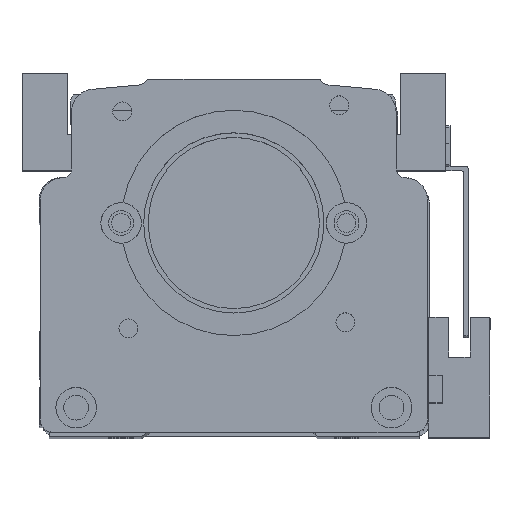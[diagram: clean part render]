
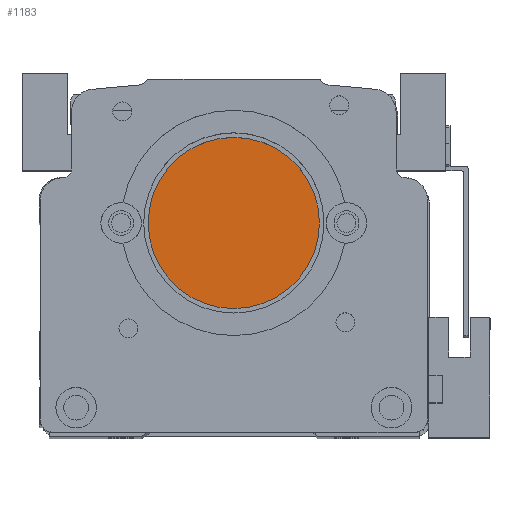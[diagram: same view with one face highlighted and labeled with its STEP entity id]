
A CAD part, top view. The second image highlights one B-rep face of the part: STEP entity #1183.
In plain terms, the highlighted planar face has unit normal (0, 0, 1) as drawn and (0, 0, -1) by its records, which use the part's own axes.
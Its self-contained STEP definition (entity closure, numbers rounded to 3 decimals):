
#1183 = ADVANCED_FACE ( 'NONE', ( #13463 ), #4524, .T. ) ;
#1758 = ORIENTED_EDGE ( 'NONE', *, *, #4444, .T. ) ;
#2357 = VERTEX_POINT ( 'NONE', #8527 ) ;
#2696 = CARTESIAN_POINT ( 'NONE',  ( 30., 39., 5. ) ) ;
#2936 = CIRCLE ( 'NONE', #14431, 19. ) ;
#4444 = EDGE_CURVE ( 'NONE', #2357, #7889, #18265, .T. ) ;
#4524 = PLANE ( 'NONE',  #17805 ) ;
#4664 = DIRECTION ( 'NONE',  ( 0., 0., -1. ) ) ;
#4887 = DIRECTION ( 'NONE',  ( -1., 0., 0. ) ) ;
#6075 = AXIS2_PLACEMENT_3D ( 'NONE', #12102, #11881, #11808 ) ;
#6251 = CARTESIAN_POINT ( 'NONE',  ( 30., 39., 5. ) ) ;
#6590 = CARTESIAN_POINT ( 'NONE',  ( 11., 39., 5. ) ) ;
#7776 = DIRECTION ( 'NONE',  ( -1., 0., 0. ) ) ;
#7889 = VERTEX_POINT ( 'NONE', #6590 ) ;
#8527 = CARTESIAN_POINT ( 'NONE',  ( 49., 39., 5. ) ) ;
#11747 = EDGE_LOOP ( 'NONE', ( #14030, #1758 ) ) ;
#11808 = DIRECTION ( 'NONE',  ( -1., 0., 0. ) ) ;
#11881 = DIRECTION ( 'NONE',  ( 0., 0., -1. ) ) ;
#12102 = CARTESIAN_POINT ( 'NONE',  ( 30., 39., 5. ) ) ;
#13463 = FACE_OUTER_BOUND ( 'NONE', #11747, .T. ) ;
#14030 = ORIENTED_EDGE ( 'NONE', *, *, #15995, .T. ) ;
#14431 = AXIS2_PLACEMENT_3D ( 'NONE', #6251, #16843, #7776 ) ;
#15995 = EDGE_CURVE ( 'NONE', #7889, #2357, #2936, .T. ) ;
#16843 = DIRECTION ( 'NONE',  ( 0., 0., -1. ) ) ;
#17805 = AXIS2_PLACEMENT_3D ( 'NONE', #2696, #4664, #4887 ) ;
#18265 = CIRCLE ( 'NONE', #6075, 19. ) ;
